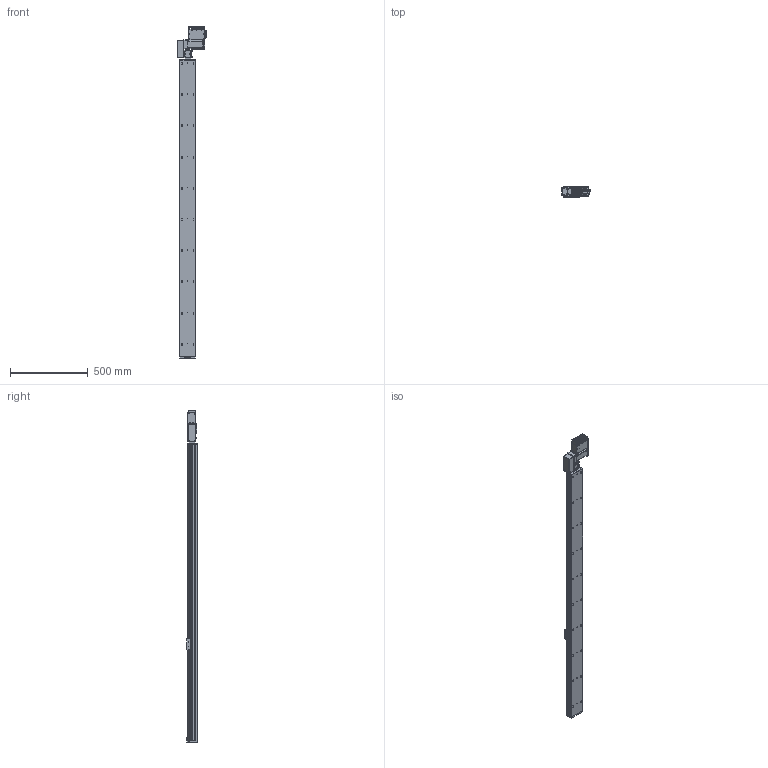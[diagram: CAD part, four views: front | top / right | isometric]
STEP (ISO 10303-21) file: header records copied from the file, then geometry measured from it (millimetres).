
FILE_DESCRIPTION (( 'STEP AP203' ), '1' );
FILE_NAME ('S10 TBN LH S2000.STEP', '2012-12-07T12:31:32', ( 'Conseil Régional Haute-Normandie' ), ( 'Conseil Régional Haute-Normandie' ), 'SwSTEP 2.0', 'SolidWorks 2010', '' );
FILE_SCHEMA (( 'CONFIG_CONTROL_DESIGN' ));
Length unit declared in the file: millimetre
Products named in the file (30): plaque de bout s10_Default; palette tbn; Assem1_7; vis M5 L5_Default; T_X2_00F4_X0_le contre le moteur_5; Couvercle_3; T_X2_00F4_X0_le fond_3; Connecteur rond D10 3cts_5; T_X2_00F4_X0_le Arri_X2_00E8_X0_re_5; T_X2_00F4_X0_le lat_X2_00E9_X0_rale_5; S10 TBN LH S2000; cache t皻e axe_Default; cache t皻e_Default; Cvis M5 L30_Default; embout; Plaque racord_Default; renvoi LH_Default; vis M5 L12_Default; Vis M5 L16-2_Default_1; BU41 Carte Alimentation P05_3; Colonnette_3; BU45 Carte d''axe A11_5; Moteur 60BLDC90A_3; Connecteur rond D12 4cts_5; Sub D 9cts 90_X2_00B_X0__3; Radiateur profil_X2_00E9_X0_ 100x25_3; Colonnette ronde_3; Vis TF 3 torkx_1_1; axe 2000._Default; axe 1900
Assembly tree (63 placements, depth 3):
  S10 TBN LH S2000
    Vis M5 L16-2_Default_1  x4
    cache t皻e_Default  x2
    embout
    vis M5 L12_Default  x4
    vis M5 L5_Default  x4
    axe 2000._Default
      axe 1900
    Plaque racord_Default
    renvoi LH_Default
    Cvis M5 L30_Default  x2
    Assem1_7
      BU41 Carte Alimentation P05_3
      Vis TF 3 torkx_1_1  x21
      T_X2_00F4_X0_le contre le moteur_5
      BU45 Carte d''axe A11_5
      Connecteur rond D10 3cts_5  x2
      Connecteur rond D12 4cts_5
      Couvercle_3
      Radiateur profil_X2_00E9_X0_ 100x25_3
      Colonnette ronde_3
      T_X2_00F4_X0_le Arri_X2_00E8_X0_re_5
      T_X2_00F4_X0_le lat_X2_00E9_X0_rale_5  x2
      Colonnette_3  x2
      Sub D 9cts 90_X2_00B_X0__3
      Moteur 60BLDC90A_3
      T_X2_00F4_X0_le fond_3
    cache t皻e axe_Default
    palette tbn
    plaque de bout s10_Default
Bounding box: 189.8 x 66.75 x 2128.74 mm (x, y, z)
Volume: 10661580.3 mm3; surface area: 1203069.5 mm2
Topology: 61 solids, 61 shells, 2325 faces, 5763 edges, 3722 vertices
Faces by surface type: plane 1102, cylinder 1006, cone 174, bspline 40, torus 3
Entity records: 48645 total; most frequent: CARTESIAN_POINT 8750, DIRECTION 7858, ORIENTED_EDGE 7122, EDGE_CURVE 3561, AXIS2_PLACEMENT_3D 2929, VERTEX_POINT 2326, LINE 2000, VECTOR 2000
